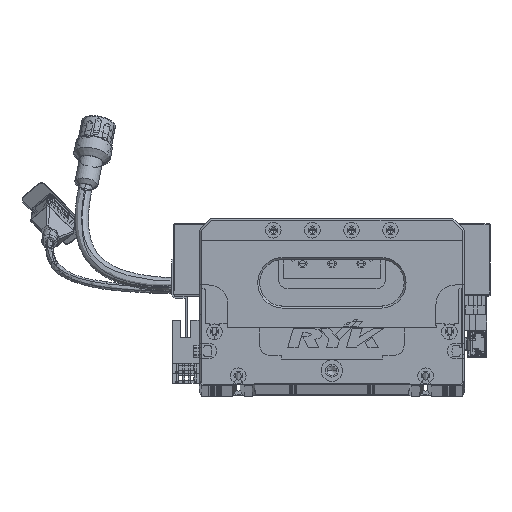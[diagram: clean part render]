
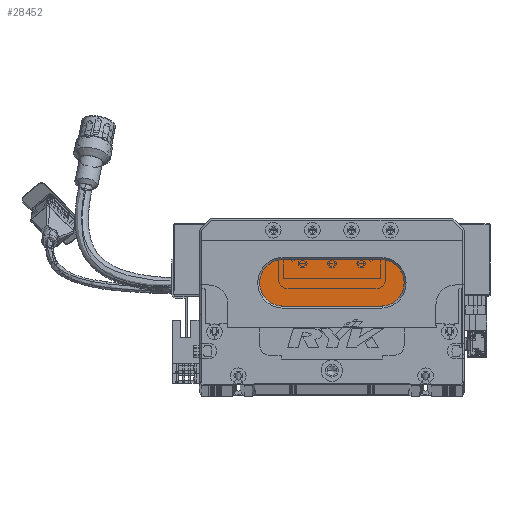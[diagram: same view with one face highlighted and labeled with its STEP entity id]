
A CAD part, top view. The second image highlights one B-rep face of the part: STEP entity #28452.
In plain terms, the highlighted planar face has unit normal (0, 0, 1) as drawn and (0, 0, -1) by its records, which use the part's own axes.
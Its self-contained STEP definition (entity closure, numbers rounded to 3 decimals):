
#740 = VERTEX_POINT ( 'NONE', #118949 ) ;
#8291 = CARTESIAN_POINT ( 'NONE',  ( 43., 64., 13. ) ) ;
#8593 = ORIENTED_EDGE ( 'NONE', *, *, #60669, .T. ) ;
#11195 = DIRECTION ( 'NONE',  ( -1., 0., 0. ) ) ;
#11258 = AXIS2_PLACEMENT_3D ( 'NONE', #78489, #33847, #79480 ) ;
#17703 = AXIS2_PLACEMENT_3D ( 'NONE', #129194, #59685, #71342 ) ;
#28452 = ADVANCED_FACE ( 'NONE', ( #142934 ), #56128, .T. ) ;
#28761 = CARTESIAN_POINT ( 'NONE',  ( 43., 52., 13. ) ) ;
#33847 = DIRECTION ( 'NONE',  ( 0., 0., -1. ) ) ;
#35476 = DIRECTION ( 'NONE',  ( 0., 0., -1. ) ) ;
#37365 = LINE ( 'NONE', #64622, #117236 ) ;
#48758 = ORIENTED_EDGE ( 'NONE', *, *, #53358, .T. ) ;
#53231 = CIRCLE ( 'NONE', #96222, 12. ) ;
#53358 = EDGE_CURVE ( 'NONE', #70133, #57215, #99996, .T. ) ;
#56128 = PLANE ( 'NONE',  #11258 ) ;
#56156 = VECTOR ( 'NONE', #112593, 1000. ) ;
#56991 = ORIENTED_EDGE ( 'NONE', *, *, #148574, .T. ) ;
#57215 = VERTEX_POINT ( 'NONE', #8291 ) ;
#59685 = DIRECTION ( 'NONE',  ( 0., 0., -1. ) ) ;
#60669 = EDGE_CURVE ( 'NONE', #106347, #70133, #53231, .T. ) ;
#63068 = VERTEX_POINT ( 'NONE', #63519 ) ;
#63519 = CARTESIAN_POINT ( 'NONE',  ( 93., 64., 13. ) ) ;
#64117 = DIRECTION ( 'NONE',  ( 1., 0., 0. ) ) ;
#64622 = CARTESIAN_POINT ( 'NONE',  ( 93., 64., 13. ) ) ;
#69521 = CARTESIAN_POINT ( 'NONE',  ( 43., 40., 13. ) ) ;
#69950 = CARTESIAN_POINT ( 'NONE',  ( 93., 40., 13. ) ) ;
#70133 = VERTEX_POINT ( 'NONE', #75398 ) ;
#71342 = DIRECTION ( 'NONE',  ( -1., 0., 0. ) ) ;
#74189 = EDGE_CURVE ( 'NONE', #740, #106347, #130566, .T. ) ;
#75398 = CARTESIAN_POINT ( 'NONE',  ( 31., 52., 13. ) ) ;
#78489 = CARTESIAN_POINT ( 'NONE',  ( 93., 52., 13. ) ) ;
#79480 = DIRECTION ( 'NONE',  ( -1., 0., 0. ) ) ;
#94614 = ORIENTED_EDGE ( 'NONE', *, *, #74189, .T. ) ;
#96222 = AXIS2_PLACEMENT_3D ( 'NONE', #28761, #99195, #110833 ) ;
#99195 = DIRECTION ( 'NONE',  ( 0., 0., -1. ) ) ;
#99996 = CIRCLE ( 'NONE', #125520, 12. ) ;
#103277 = ORIENTED_EDGE ( 'NONE', *, *, #107076, .T. ) ;
#106347 = VERTEX_POINT ( 'NONE', #69521 ) ;
#107076 = EDGE_CURVE ( 'NONE', #63068, #740, #110379, .T. ) ;
#110379 = CIRCLE ( 'NONE', #17703, 12. ) ;
#110833 = DIRECTION ( 'NONE',  ( -1., 0., 0. ) ) ;
#112593 = DIRECTION ( 'NONE',  ( -1., 0., 0. ) ) ;
#117236 = VECTOR ( 'NONE', #64117, 1000. ) ;
#118949 = CARTESIAN_POINT ( 'NONE',  ( 93., 40., 13. ) ) ;
#125520 = AXIS2_PLACEMENT_3D ( 'NONE', #128767, #35476, #11195 ) ;
#125911 = EDGE_LOOP ( 'NONE', ( #103277, #94614, #8593, #48758, #56991 ) ) ;
#128767 = CARTESIAN_POINT ( 'NONE',  ( 43., 52., 13. ) ) ;
#129194 = CARTESIAN_POINT ( 'NONE',  ( 93., 52., 13. ) ) ;
#130566 = LINE ( 'NONE', #69950, #56156 ) ;
#142934 = FACE_OUTER_BOUND ( 'NONE', #125911, .T. ) ;
#148574 = EDGE_CURVE ( 'NONE', #57215, #63068, #37365, .T. ) ;
